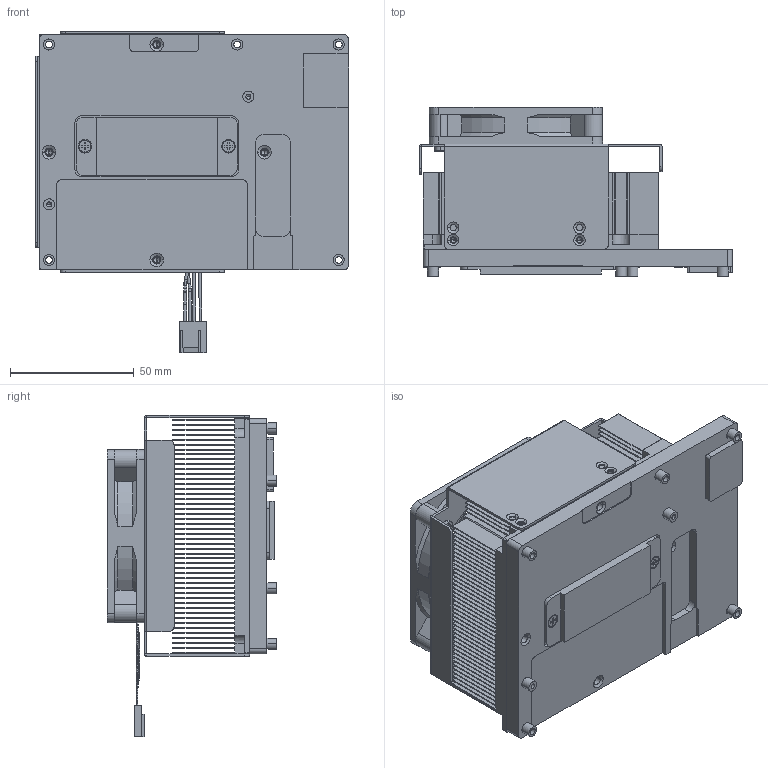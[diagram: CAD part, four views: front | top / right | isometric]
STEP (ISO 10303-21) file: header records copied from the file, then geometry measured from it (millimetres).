
FILE_DESCRIPTION((''),'2;1');
FILE_NAME('00-ESM-RPL_ASM','2024-04-24T13:13:26',('gino_hsu'),(''),'CREO PARAMETRIC BY PTC INC, 2023294','CREO PARAMETRIC BY PTC INC, 2023294','');
FILE_SCHEMA(('CONFIG_CONTROL_DESIGN'));
Length unit declared in the file: millimetre
Products named in the file (10): ESM-RPL-HEATSPERDER-01; ESM-RPL_HEATSPREADER-CU; E1931010401R; E19612X1450003R_ASM; SKIVED_HEATSINK; ESM-FAN-BRACKET; FAN-7015_ASM; ESM-HEATPIPE; E1961123450004R_ASM; 00-ESM-RPL_ASM
Assembly tree (11 placements, depth 3):
  00-ESM-RPL_ASM
    E19612X1450003R_ASM
      ESM-RPL-HEATSPERDER-01
      ESM-RPL_HEATSPREADER-CU
      E1931010401R  x2
    E1961123450004R_ASM
      SKIVED_HEATSINK
      ESM-FAN-BRACKET
      FAN-7015_ASM
      ESM-HEATPIPE  x2
Bounding box: 126.5 x 68.5 x 129.74 mm (x, y, z)
Volume: 203349.9 mm3; surface area: 336936.3 mm2
Topology: 10 solids, 10 shells, 1422 faces, 3846 edges, 2473 vertices
Faces by surface type: plane 671, cylinder 486, cone 109, bspline 60, torus 50, extrusion 34, revolution 8, sphere 4
Entity records: 52595 total; most frequent: CARTESIAN_POINT 18229, ORIENTED_EDGE 7284, DIRECTION 6987, EDGE_CURVE 3642, AXIS2_PLACEMENT_3D 2432, VERTEX_POINT 2361, VECTOR 2115, LINE 2081
